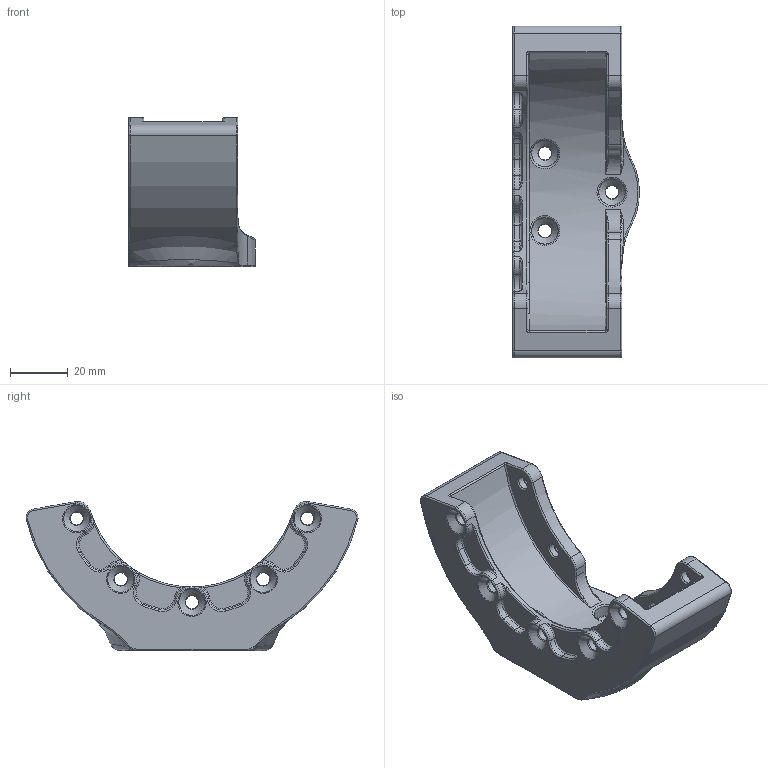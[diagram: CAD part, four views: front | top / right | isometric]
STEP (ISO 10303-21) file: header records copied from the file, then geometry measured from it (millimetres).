
FILE_DESCRIPTION(/* description */ ('STEP AP242 Edition 2','CAx-IF Rec.Pracs.---Representation and Presentation of Product Manufacturing Information (PMI)---4.0---2014-10-13','CAx-IF Rec.Pracs.---3D Tessellated Geometry---0.4---2014-09-14','2;1','CAx-IF Rec.Pracs.---User Defined Attributes---1.5---2016-08-15'),/* implementation_level */ '2;1');
FILE_NAME(/* name */ 'Tarok - Total Assemply - Hip Mount',/* time_stamp */ '2026-05-23T09:32:38Z',/* author */ (''),/* organization */ (''),/* preprocessor_version */ 'ST-DEVELOPER v20',/* originating_system */ 'ONSHAPE BY PTC INC, 1.215',/* authorisation */ ' ');
FILE_SCHEMA (('AP242_MANAGED_MODEL_BASED_3D_ENGINEERING_MIM_LF { 1 0 10303 442 3 1 4 }'));
Length unit declared in the file: metre
Products named in the file (1): Hip Mount
Bounding box: 43.95 x 115.04 x 51.64 mm (x, y, z)
Volume: 70899 mm3; surface area: 21603.4 mm2
Topology: 1 solids, 1 shells, 292 faces, 729 edges, 419 vertices
Faces by surface type: torus 127, cylinder 88, bspline 39, plane 26, cone 12
Full cylindrical faces by diameter (mm): 4.2 x3, 4.5 x10, 4.7 x2, 9.4 x3
Entity records: 8735 total; most frequent: CARTESIAN_POINT 2432, DIRECTION 1416, ORIENTED_EDGE 1200, AXIS2_PLACEMENT_3D 649, EDGE_CURVE 600, CIRCLE 395, EDGE_LOOP 385, FACE_BOUND 385
